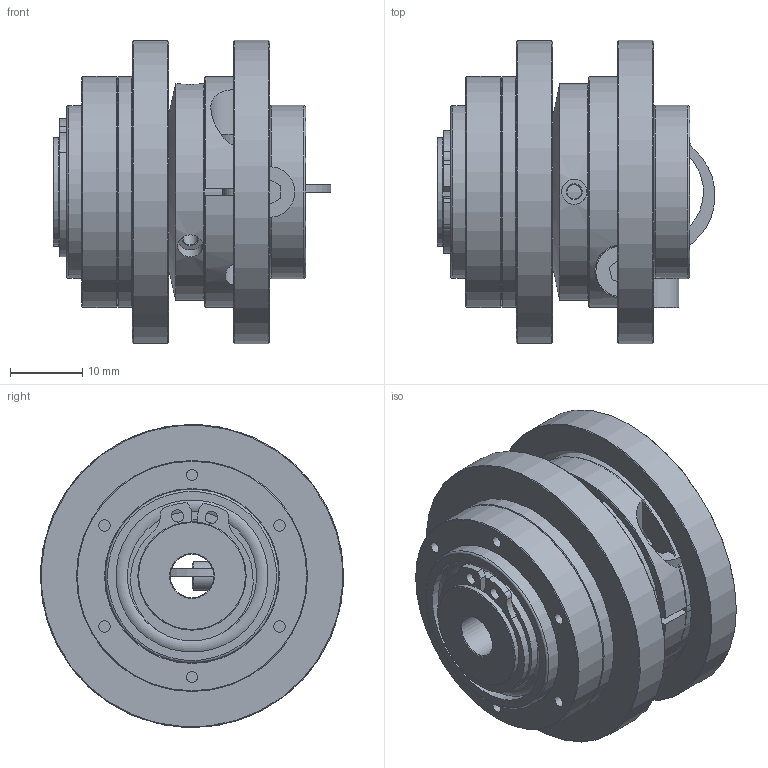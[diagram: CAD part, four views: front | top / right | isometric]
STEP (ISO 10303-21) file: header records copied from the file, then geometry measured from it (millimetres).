
FILE_DESCRIPTION( ( 'Unknown' ), '1' );
FILE_NAME( 'C:/Dokumente und Einstellungen/Sven/Desktop/hp kbk/KBK L-K-4,5.stp', 'Unknown', ( 'Unknown' ), ( 'Unknown' ), 'XStep 1.0', 'Unknown', ' ' );
FILE_SCHEMA( ( 'automotive_design' ) );
Length unit declared in the file: millimetre
Products named in the file (13): Assem1; Assem2; Assem3; Zylinderschraube DIN 912_3; ball_bearing_-_61802_0_01; ball_bearing_-_61802_0_02; ball_bearing_-_61802_0_03; Grundkörper L-K-4,5; Klemmnabe 4,5; Flansch 4,5; Stellring 4,5; Druckring 4,5; a_15
Bounding box: 38.5 x 42 x 42 mm (x, y, z)
Volume: 43987.4 mm3; surface area: 35263.9 mm2
Topology: 24 solids, 24 shells, 296 faces, 654 edges, 424 vertices
Faces by surface type: cylinder 112, plane 102, cone 61, torus 21
Full cylindrical faces by diameter (mm): 1.567 x12, 1.7 x4, 2.013 x6, 3.242 x2, 3.5 x6, 4 x3, 4.2 x2, 6 x2, 7 x3, 7.3 x2, 14 x2, 15 x9, 16 x2, 17.9 x6, 18 x4, 21.1 x6, 22 x2, 24 x5, 30 x2, 32 x4, 34 x2, 42 x2
Entity records: 3994 total; most frequent: CARTESIAN_POINT 922, DIRECTION 604, ORIENTED_EDGE 406, AXIS2_PLACEMENT_3D 275, EDGE_LOOP 252, EDGE_CURVE 203, FACE_OUTER_BOUND 178, VERTEX_POINT 171
